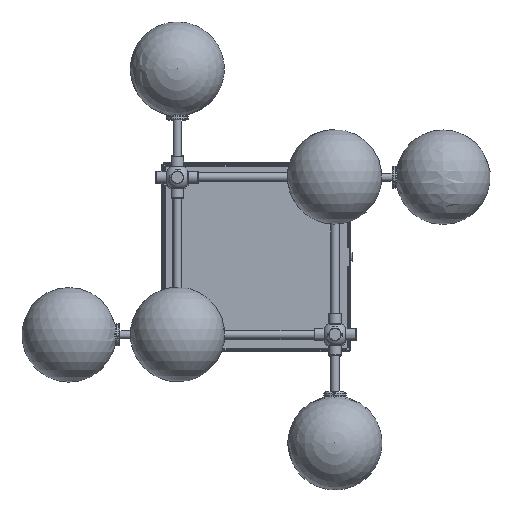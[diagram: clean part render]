
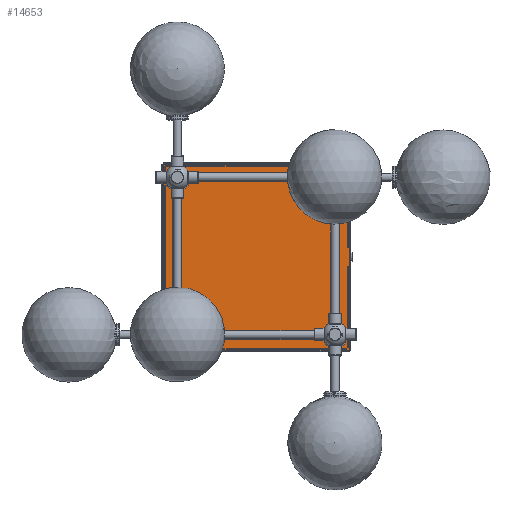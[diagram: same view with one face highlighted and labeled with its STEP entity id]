
A CAD part, top view. The second image highlights one B-rep face of the part: STEP entity #14653.
In plain terms, the highlighted planar face has unit normal (0, 0, 1).
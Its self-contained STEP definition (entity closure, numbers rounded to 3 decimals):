
#1086=FACE_BOUND('',#2894,.T.);
#1087=FACE_BOUND('',#2895,.T.);
#1088=FACE_BOUND('',#2896,.T.);
#1089=FACE_BOUND('',#2897,.T.);
#1686=FACE_OUTER_BOUND('',#2893,.T.);
#2893=EDGE_LOOP('',(#11072,#11073,#11074,#11075,#11076,#11077,#11078,#11079,
#11080,#11081,#11082,#11083));
#2894=EDGE_LOOP('',(#11084));
#2895=EDGE_LOOP('',(#11085));
#2896=EDGE_LOOP('',(#11086));
#2897=EDGE_LOOP('',(#11087));
#4035=LINE('',#24969,#4783);
#4039=LINE('',#24978,#4787);
#4043=LINE('',#24987,#4791);
#4047=LINE('',#24996,#4795);
#4049=LINE('',#25001,#4797);
#4052=LINE('',#25007,#4800);
#4055=LINE('',#25013,#4803);
#4058=LINE('',#25019,#4806);
#4073=LINE('',#25053,#4821);
#4087=LINE('',#25086,#4835);
#4101=LINE('',#25121,#4849);
#4115=LINE('',#25154,#4863);
#4783=VECTOR('',#19328,10.);
#4787=VECTOR('',#19334,10.);
#4791=VECTOR('',#19340,10.);
#4795=VECTOR('',#19346,10.);
#4797=VECTOR('',#19350,10.);
#4800=VECTOR('',#19355,10.);
#4803=VECTOR('',#19360,10.);
#4806=VECTOR('',#19365,10.);
#4821=VECTOR('',#19402,10.);
#4835=VECTOR('',#19438,10.);
#4849=VECTOR('',#19478,10.);
#4863=VECTOR('',#19514,10.);
#5579=CIRCLE('',#15926,20.);
#5703=CIRCLE('',#16178,20.);
#5704=CIRCLE('',#16179,20.);
#5705=CIRCLE('',#16180,20.);
#6662=VERTEX_POINT('',#24548);
#6759=VERTEX_POINT('',#24962);
#6762=VERTEX_POINT('',#24967);
#6763=VERTEX_POINT('',#24971);
#6766=VERTEX_POINT('',#24976);
#6767=VERTEX_POINT('',#24980);
#6770=VERTEX_POINT('',#24985);
#6771=VERTEX_POINT('',#24989);
#6774=VERTEX_POINT('',#24994);
#6776=VERTEX_POINT('',#24999);
#6778=VERTEX_POINT('',#25005);
#6780=VERTEX_POINT('',#25011);
#6782=VERTEX_POINT('',#25017);
#6815=VERTEX_POINT('',#25162);
#6816=VERTEX_POINT('',#25164);
#6817=VERTEX_POINT('',#25166);
#8077=EDGE_CURVE('',#6662,#6662,#5579,.T.);
#8242=EDGE_CURVE('',#6759,#6762,#4035,.T.);
#8246=EDGE_CURVE('',#6763,#6766,#4039,.T.);
#8250=EDGE_CURVE('',#6767,#6770,#4043,.T.);
#8254=EDGE_CURVE('',#6771,#6774,#4047,.T.);
#8256=EDGE_CURVE('',#6766,#6776,#4049,.T.);
#8259=EDGE_CURVE('',#6770,#6778,#4052,.T.);
#8262=EDGE_CURVE('',#6774,#6780,#4055,.T.);
#8265=EDGE_CURVE('',#6762,#6782,#4058,.T.);
#8284=EDGE_CURVE('',#6776,#6759,#4073,.T.);
#8302=EDGE_CURVE('',#6778,#6763,#4087,.T.);
#8320=EDGE_CURVE('',#6780,#6767,#4101,.T.);
#8338=EDGE_CURVE('',#6782,#6771,#4115,.T.);
#8339=EDGE_CURVE('',#6815,#6815,#5703,.T.);
#8340=EDGE_CURVE('',#6816,#6816,#5704,.T.);
#8341=EDGE_CURVE('',#6817,#6817,#5705,.T.);
#11072=ORIENTED_EDGE('',*,*,#8265,.T.);
#11073=ORIENTED_EDGE('',*,*,#8338,.T.);
#11074=ORIENTED_EDGE('',*,*,#8254,.T.);
#11075=ORIENTED_EDGE('',*,*,#8262,.T.);
#11076=ORIENTED_EDGE('',*,*,#8320,.T.);
#11077=ORIENTED_EDGE('',*,*,#8250,.T.);
#11078=ORIENTED_EDGE('',*,*,#8259,.T.);
#11079=ORIENTED_EDGE('',*,*,#8302,.T.);
#11080=ORIENTED_EDGE('',*,*,#8246,.T.);
#11081=ORIENTED_EDGE('',*,*,#8256,.T.);
#11082=ORIENTED_EDGE('',*,*,#8284,.T.);
#11083=ORIENTED_EDGE('',*,*,#8242,.T.);
#11084=ORIENTED_EDGE('',*,*,#8339,.T.);
#11085=ORIENTED_EDGE('',*,*,#8077,.T.);
#11086=ORIENTED_EDGE('',*,*,#8340,.T.);
#11087=ORIENTED_EDGE('',*,*,#8341,.T.);
#13981=PLANE('',#16177);
#14653=ADVANCED_FACE('',(#1686,#1086,#1087,#1088,#1089),#13981,.F.);
#15926=AXIS2_PLACEMENT_3D('',#24550,#18891,#18892);
#16177=AXIS2_PLACEMENT_3D('',#25161,#19527,#19528);
#16178=AXIS2_PLACEMENT_3D('',#25163,#19529,#19530);
#16179=AXIS2_PLACEMENT_3D('',#25165,#19531,#19532);
#16180=AXIS2_PLACEMENT_3D('',#25167,#19533,#19534);
#18891=DIRECTION('center_axis',(0.,0.,
-1.));
#18892=DIRECTION('ref_axis',(-1.,0.,0.));
#19328=DIRECTION('',(0.,1.,0.));
#19334=DIRECTION('',(1.,0.,0.));
#19340=DIRECTION('',(0.,-1.,0.));
#19346=DIRECTION('',(-1.,0.,0.));
#19350=DIRECTION('',(0.,1.,0.));
#19355=DIRECTION('',(1.,0.,0.));
#19360=DIRECTION('',(0.,-1.,0.));
#19365=DIRECTION('',(-1.,0.,0.));
#19402=DIRECTION('',(0.,1.,0.));
#19438=DIRECTION('',(1.,0.,0.));
#19478=DIRECTION('',(0.,-1.,0.));
#19514=DIRECTION('',(-1.,0.,0.));
#19527=DIRECTION('center_axis',(0.,0.,
-1.));
#19528=DIRECTION('ref_axis',(1.,0.,0.));
#19529=DIRECTION('center_axis',(0.,0.,
-1.));
#19530=DIRECTION('ref_axis',(0.,-1.,0.));
#19531=DIRECTION('center_axis',(0.,0.,
-1.));
#19532=DIRECTION('ref_axis',(0.,1.,0.));
#19533=DIRECTION('center_axis',(0.,0.,
-1.));
#19534=DIRECTION('ref_axis',(1.,0.,0.));
#24548=CARTESIAN_POINT('',(-105.,124.5,41.5));
#24550=CARTESIAN_POINT('Origin',(-125.,124.5,41.5));
#24962=CARTESIAN_POINT('',(147.5,147.939,41.5));
#24967=CARTESIAN_POINT('',(147.5,148.,41.5));
#24969=CARTESIAN_POINT('',(147.5,-73.25,41.5));
#24971=CARTESIAN_POINT('',(147.439,-147.,41.5));
#24976=CARTESIAN_POINT('',(147.5,-147.,41.5));
#24978=CARTESIAN_POINT('',(-73.75,-147.,41.5));
#24980=CARTESIAN_POINT('',(-147.5,-146.939,41.5));
#24985=CARTESIAN_POINT('',(-147.5,-147.,41.5));
#24987=CARTESIAN_POINT('',(-147.5,74.25,41.5));
#24989=CARTESIAN_POINT('',(-147.439,148.,41.5));
#24994=CARTESIAN_POINT('',(-147.5,148.,41.5));
#24996=CARTESIAN_POINT('',(73.75,148.,41.5));
#24999=CARTESIAN_POINT('',(147.5,-146.939,41.5));
#25001=CARTESIAN_POINT('',(147.5,-73.25,41.5));
#25005=CARTESIAN_POINT('',(-147.439,-147.,41.5));
#25007=CARTESIAN_POINT('',(-73.75,-147.,41.5));
#25011=CARTESIAN_POINT('',(-147.5,147.939,41.5));
#25013=CARTESIAN_POINT('',(-147.5,74.25,41.5));
#25017=CARTESIAN_POINT('',(147.439,148.,41.5));
#25019=CARTESIAN_POINT('',(73.75,148.,41.5));
#25053=CARTESIAN_POINT('',(147.5,-73.25,41.5));
#25086=CARTESIAN_POINT('',(-73.75,-147.,41.5));
#25121=CARTESIAN_POINT('',(-147.5,74.25,41.5));
#25154=CARTESIAN_POINT('',(73.75,148.,41.5));
#25161=CARTESIAN_POINT('Origin',(0.,0.5,
41.5));
#25162=CARTESIAN_POINT('',(-124.5,-105.,41.5));
#25163=CARTESIAN_POINT('Origin',(-124.5,-125.,41.5));
#25164=CARTESIAN_POINT('',(124.5,105.,41.5));
#25165=CARTESIAN_POINT('Origin',(124.5,125.,41.5));
#25166=CARTESIAN_POINT('',(105.,-124.5,41.5));
#25167=CARTESIAN_POINT('Origin',(125.,-124.5,41.5));
